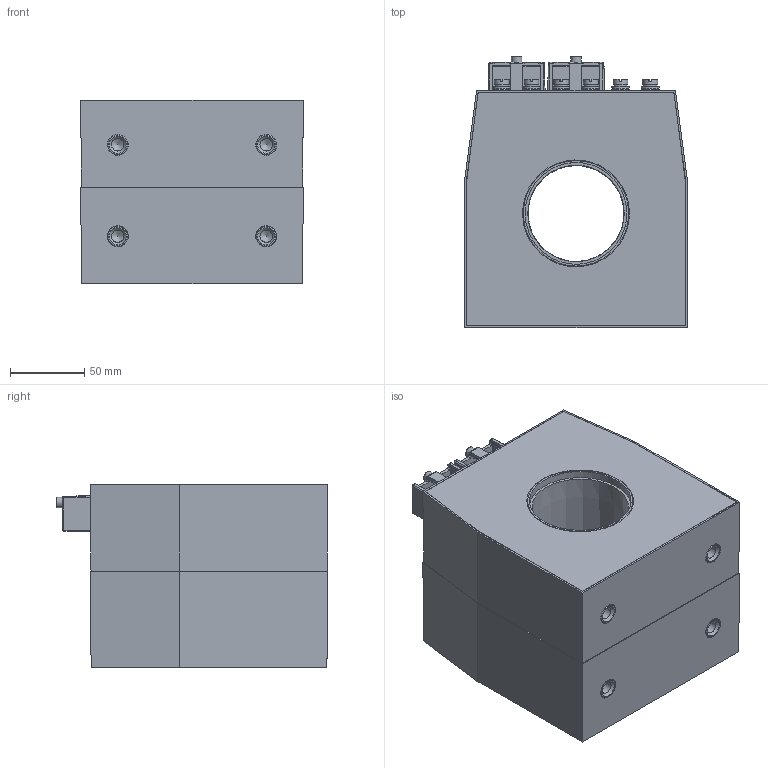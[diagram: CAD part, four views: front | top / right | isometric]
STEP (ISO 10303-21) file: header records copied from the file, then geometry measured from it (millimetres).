
FILE_DESCRIPTION(('STEP AP203'), '1');
FILE_NAME('ÒØÏ-ÍÒÇ-0,66-82À (65 ìì, 2-é ãàáàðèò)', '2025-08-27T09:45:05', ('UNSPECIFIED'), ('UNSPECIFIED'), 'ASCON STEP Converter 1.3', 'ASCON Math Kernel', '');
FILE_SCHEMA(('CONFIG_CONTROL_DESIGN'));
Length unit declared in the file: millimetre
Assembly tree (39 placements, depth 2):
  (unnamed)
    (unnamed)
    (unnamed)
    (unnamed)  x2
    (unnamed)  x4
    (unnamed)  x2
    (unnamed)  x6
    (unnamed)  x2
    (unnamed)  x6
    (unnamed)  x6
    (unnamed)  x6
    (unnamed)  x2
    (unnamed)
Bounding box: 150 x 182.93 x 123.5 mm (x, y, z)
Volume: 508027.4 mm3; surface area: 327085.6 mm2
Topology: 39 solids, 39 shells, 590 faces, 1294 edges, 801 vertices
Faces by surface type: plane 300, cylinder 176, cone 78, torus 20, bspline 16
Full cylindrical faces by diameter (mm): 3.244 x2, 3.95 x2, 4 x6, 4.5 x2, 4.8 x6, 4.92 x6, 6 x10, 6.4 x6, 7 x2, 7.1 x4, 8 x2, 8.376 x4, 10 x12, 10.1 x6, 12 x12, 14 x8, 17 x4, 65 x1, 65.05 x1, 68.599 x4, 68.6 x1, 71 x1
Entity records: 12305 total; most frequent: CARTESIAN_POINT 2568, DIRECTION 1346, ORIENTED_EDGE 1158, EDGE_CURVE 579, AXIS2_PLACEMENT_3D 504, VERTEX_POINT 408, EDGE_LOOP 401, LINE 338
